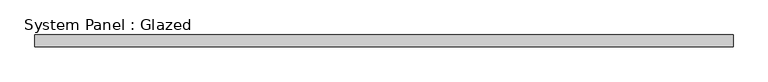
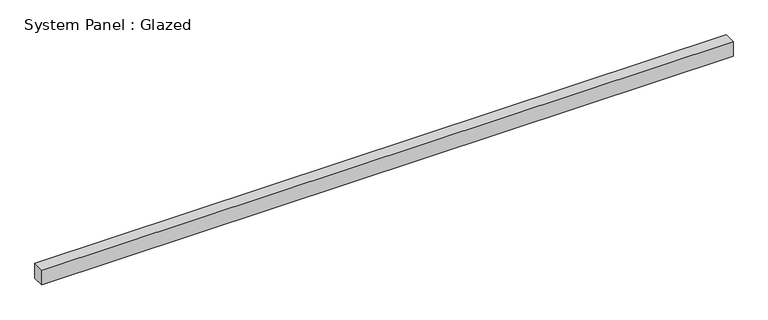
"""IFC4 building model written with IfcOpenShell, lengths in millimetres: plate geometry, System Panel : Glazed."""

from ifc_helpers import new_model, si_unit, origin, origin_with_axes, place, context, project, spatial, polyline, outline, extrude, source, transform, mapped, element, save


def system_panel_glazed_04b461fe(model_context):
    return source(origin(), model_context, "Body", "SweptSolid", [
        extrude(outline(polyline([(736.9999999, 24.5), (-736.9999999, 24.5), (-736.9999999, 49.5), (736.9999999, 49.5), (736.9999999, 24.5)])), origin_with_axes(), (0.0, 0.0, 1.0), 33.25),
    ])


if __name__ == "__main__":
    model = new_model("IFC4")
    model_context = context("Model", 3, world=origin())
    ifc_project = project(units=[si_unit("LENGTHUNIT", "METRE", prefix="MILLI")], contexts=[model_context])
    site = spatial("IfcSite", under=ifc_project)
    building = spatial("IfcBuilding", under=site)
    placement = place(None, origin())
    system_panel_glazed_shape = system_panel_glazed_04b461fe(model_context)
    element("IfcPlate", 1, ObjectType="System Panel : Glazed", at=placement, inside=building, context=model_context, shape_type="MappedRepresentation", body=[
        mapped(system_panel_glazed_shape, transform((0.0, 0.0, 0.0), x_axis=(1.0, 0.0, 0.0), y_axis=(0.0, 1.0, 0.0), z_axis=(0.0, 0.0, 1.0))),
    ])
    save(model, "model.ifc")
